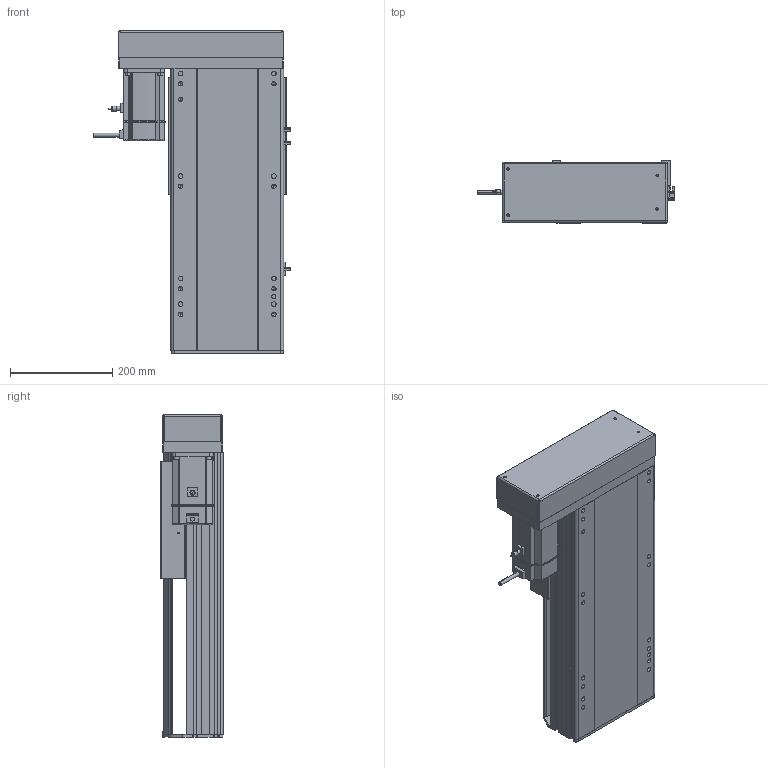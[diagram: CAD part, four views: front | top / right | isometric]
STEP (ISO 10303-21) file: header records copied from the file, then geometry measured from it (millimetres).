
FILE_DESCRIPTION (( 'STEP AP214' ), '1' );
FILE_NAME ('RTH22-XX-250-R-M75-C4.STEP', '2025-10-25T03:08:03', ( 'Microsoft' ), ( 'Microsoft' ), 'SwSTEP 2.0', 'SolidWorks 2018', '' );
FILE_SCHEMA (( 'AUTOMOTIVE_DESIGN' ));
Length unit declared in the file: millimetre
Products named in the file (10): N_RTH22-L-011菁釱^RTH22-XX-XX-R-M75-C4; N_750W萇儂^RTH22-XX-XX-R-M75-C4; RTH22-XX-250-R-M75-C4; N_RTH22-GY-001耜裔^RTH22-XX-XX-R-M75-C4; N_RTH22-L-018裔赽^RTH22-XX-XX-R-M75-C4; N_RTH22-L-004-SFS25賑釱^RTH22-XX-XX-R-M75-C4; N_RTH22-L-007奻裔^RTH22-XX-XX-R-M75-C4; N_RTH22-R-008-P75萇儂啣^RTH22-XX-XX-R-M75-C4; N_RTH22-GY-013外置感应片^RTH22-XX-XX-R-M75-C4; N_OMRON EE-SX672 传感器^RTH22-XX-XX-R-M75-C4
Assembly tree (11 placements, depth 2):
  RTH22-XX-250-R-M75-C4
    N_RTH22-L-011菁釱^RTH22-XX-XX-R-M75-C4
    N_RTH22-GY-001耜裔^RTH22-XX-XX-R-M75-C4
    N_750W萇儂^RTH22-XX-XX-R-M75-C4
    N_RTH22-R-008-P75萇儂啣^RTH22-XX-XX-R-M75-C4
    N_RTH22-L-007奻裔^RTH22-XX-XX-R-M75-C4
    N_OMRON EE-SX672 传感器^RTH22-XX-XX-R-M75-C4  x3
    N_RTH22-GY-013外置感应片^RTH22-XX-XX-R-M75-C4
    N_RTH22-L-004-SFS25賑釱^RTH22-XX-XX-R-M75-C4
    N_RTH22-L-018裔赽^RTH22-XX-XX-R-M75-C4
Bounding box: 384.7 x 122 x 629.7 mm (x, y, z)
Volume: 10160627.4 mm3; surface area: 1248713.7 mm2
Topology: 11 solids, 11 shells, 1538 faces, 4197 edges, 2713 vertices
Faces by surface type: plane 787, cylinder 426, bspline 279, cone 46
Entity records: 37993 total; most frequent: CARTESIAN_POINT 11758, ORIENTED_EDGE 5394, DIRECTION 5023, EDGE_CURVE 2697, VERTEX_POINT 1749, VECTOR 1699, LINE 1699, AXIS2_PLACEMENT_3D 1662
